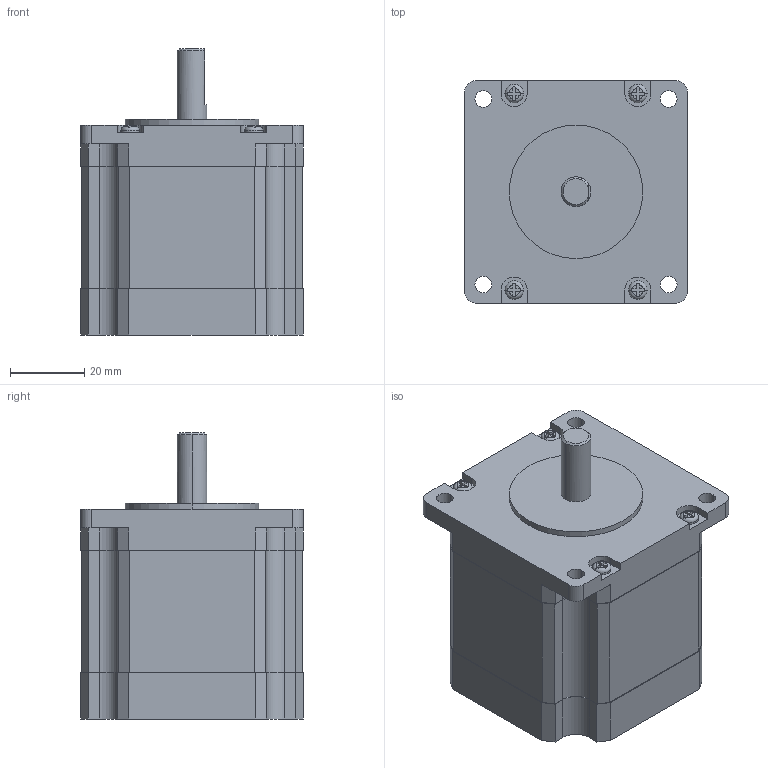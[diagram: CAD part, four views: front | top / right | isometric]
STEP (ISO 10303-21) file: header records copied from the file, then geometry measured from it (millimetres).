
FILE_DESCRIPTION (( 'STEP AP214' ), '1' );
FILE_NAME ('TS3624N2.STEP', '2011-09-15T08:59:39', ( '' ), ( '' ), 'SwSTEP 2.0', 'SolidWorks 2010', '' );
FILE_SCHEMA (( 'AUTOMOTIVE_DESIGN' ));
Length unit declared in the file: millimetre
Products named in the file (1): TS3624N2
Bounding box: 60 x 60 x 77.1 mm (x, y, z)
Volume: 183894.2 mm3; surface area: 20731.6 mm2
Topology: 1 solids, 1 shells, 206 faces, 574 edges, 378 vertices
Faces by surface type: plane 136, cylinder 60, torus 8, cone 2
Entity records: 7016 total; most frequent: CARTESIAN_POINT 1331, ORIENTED_EDGE 1148, DIRECTION 1106, EDGE_CURVE 574, VECTOR 388, LINE 388, VERTEX_POINT 378, AXIS2_PLACEMENT_3D 359
